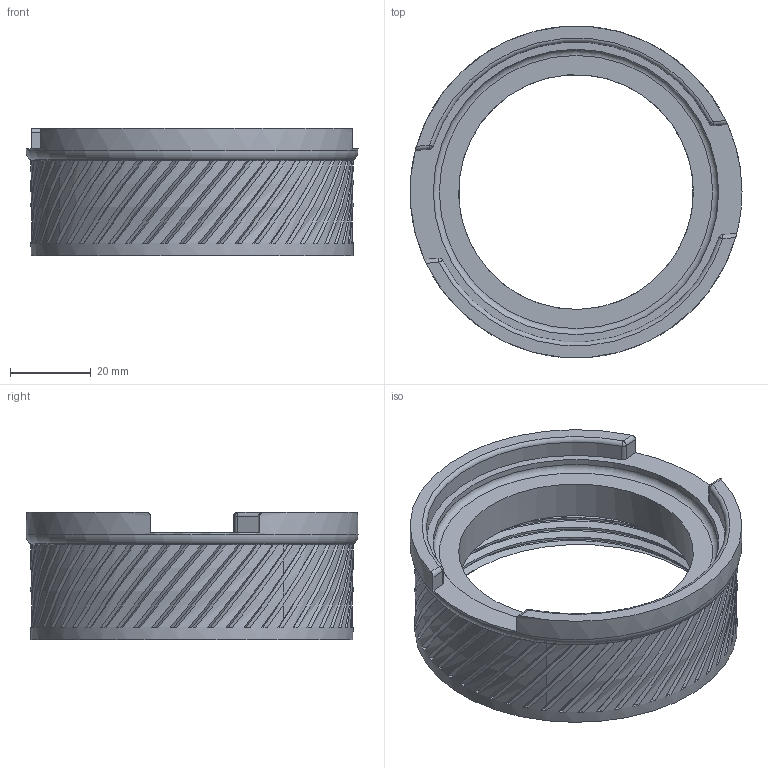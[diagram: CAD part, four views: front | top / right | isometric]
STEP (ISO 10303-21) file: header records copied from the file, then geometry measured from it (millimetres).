
FILE_DESCRIPTION(/* description */ ('STEP AP242','CAx-IF Rec.Pracs.---Representation and Presentation of Product Manufacturing Information (PMI)---4.0---2014-10-13','CAx-IF Rec.Pracs.---3D Tessellated Geometry---0.4---2014-09-14','2;1'),/* implementation_level */ '2;1');
FILE_NAME(/* name */ '646922bccac4670533c1fc83',/* time_stamp */ '2023-05-20T19:42:52Z',/* author */ (''),/* organization */ (''),/* preprocessor_version */ 'ST-DEVELOPER v19.4',/* originating_system */ ' ',/* authorisation */ ' ');
FILE_SCHEMA (('AP242_MANAGED_MODEL_BASED_3D_ENGINEERING_MIM_LF { 1 0 10303 442 1 1 4 }'));
Length unit declared in the file: metre
Products named in the file (1): Base 21mm NoMagnet Lug
Bounding box: 82 x 82 x 31.4 mm (x, y, z)
Volume: 43919.2 mm3; surface area: 20858.2 mm2
Topology: 1 solids, 1 shells, 295 faces, 754 edges, 460 vertices
Faces by surface type: plane 134, bspline 130, cylinder 19, torus 4, cone 4, sphere 4
Full cylindrical faces by diameter (mm): 58 x1, 70.5 x1, 79.6 x1, 82 x1
Entity records: 15196 total; most frequent: CARTESIAN_POINT 9704, ORIENTED_EDGE 1448, DIRECTION 783, EDGE_CURVE 724, VERTEX_POINT 446, AXIS2_PLACEMENT_3D 362, EDGE_LOOP 304, FACE_BOUND 304
